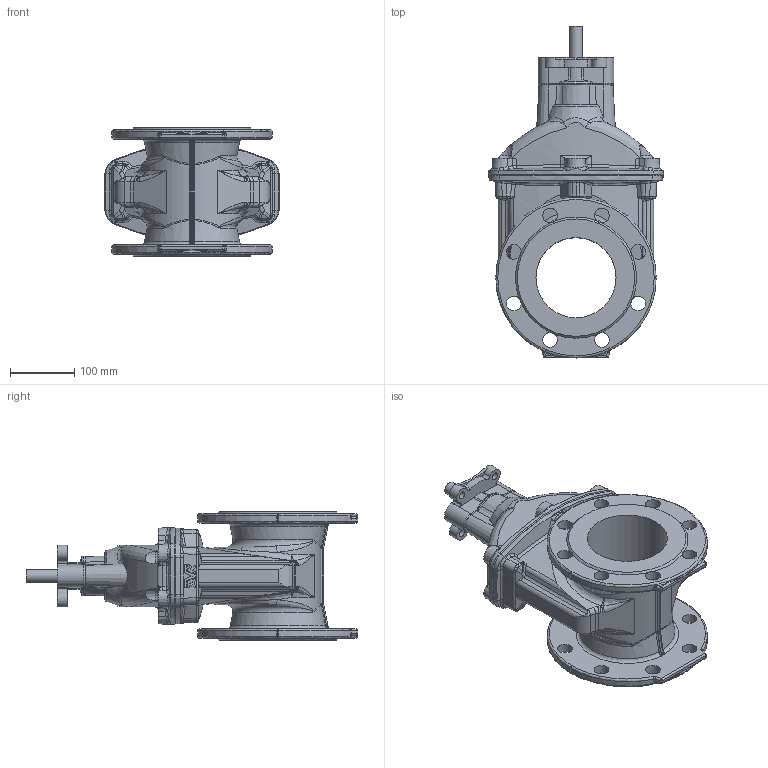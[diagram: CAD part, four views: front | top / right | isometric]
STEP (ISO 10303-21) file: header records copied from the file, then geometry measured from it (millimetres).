
FILE_DESCRIPTION (( 'STEP AP203' ), '1' );
FILE_NAME ('O_06_42_DN125_X1XXX_REV02.step', '2025-12-18T06:56:14', ( '' ), ( '' ), 'SwSTEP 2.0', 'SolidWorks 2022', '' );
FILE_SCHEMA (( 'CONFIG_CONTROL_DESIGN' ));
Length unit declared in the file: millimetre
Products named in the file (1): O_06_42_DN125_X1XXX_REV02
Bounding box: 273.59 x 517.5 x 200 mm (x, y, z)
Volume: 6575799.2 mm3; surface area: 517176.9 mm2
Topology: 1 solids, 1 shells, 765 faces, 1963 edges, 1163 vertices
Faces by surface type: bspline 272, cylinder 189, plane 170, cone 68, torus 54, sphere 12
Full cylindrical faces by diameter (mm): 12 x4, 20 x1, 23 x16, 72 x1, 125 x1
Entity records: 32918 total; most frequent: CARTESIAN_POINT 17085, ORIENTED_EDGE 3760, DIRECTION 2723, EDGE_CURVE 1880, VERTEX_POINT 1139, AXIS2_PLACEMENT_3D 1109, EDGE_LOOP 829, FACE_OUTER_BOUND 790
